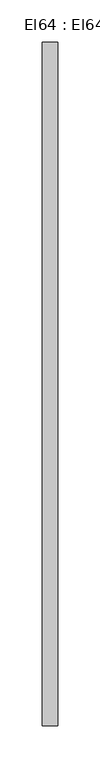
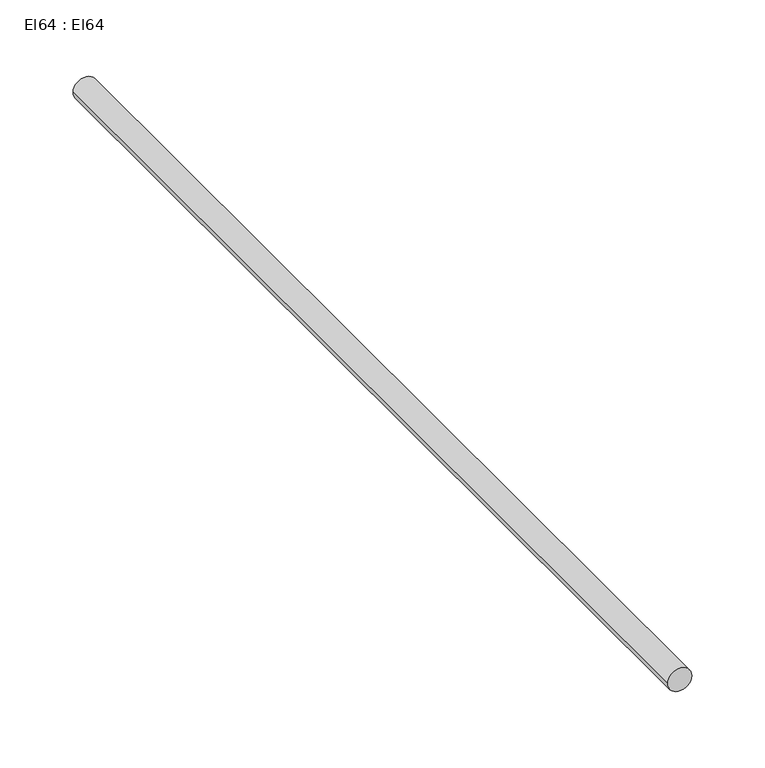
"""IFC4 building model written with IfcOpenShell, lengths in millimetres: cable carrier segment geometry, El64 : El64."""

from ifc_helpers import new_model, si_unit, point, frame, frame_2d, origin, place, context, project, spatial, circle_curve, trimmed, segment, composite_curve, outline, extrude, source, transform, mapped, element, save


def el64_el64_7803b028(model_context):
    return source(origin(), model_context, "Body", "SweptSolid", [
        extrude(outline(composite_curve([segment(trimmed(circle_curve(frame_2d((1200.0, 12950.0)), 9.5), [point((1200.0, 12940.5))], [point((1200.0, 12959.5))], False, "CARTESIAN"), True, "CONTINUOUS"), segment(trimmed(circle_curve(frame_2d((1200.0, 12950.0)), 9.5), [point((1200.0, 12959.5))], [point((1200.0, 12940.5))], False, "CARTESIAN"), True, "CONTINUOUS")], self_intersect=False)), frame((0.0, 15954.92, 0.0), z_axis=(0.0, 1.0, 0.0), x_axis=(0.0, 0.0, 1.0)), (0.0, 0.0, 1.0), 813.961),
    ])


if __name__ == "__main__":
    model = new_model("IFC4")
    model_context = context("Model", 3, world=origin())
    ifc_project = project(units=[si_unit("LENGTHUNIT", "METRE", prefix="MILLI")], contexts=[model_context])
    site = spatial("IfcSite", under=ifc_project)
    building = spatial("IfcBuilding", under=site)
    placement = place(None, origin())
    el64_el64_shape = el64_el64_7803b028(model_context)
    element("IfcCableCarrierSegment", 1, ObjectType="El64 : El64", at=placement, inside=building, context=model_context, shape_type="MappedRepresentation", body=[
        mapped(el64_el64_shape, transform((0.0, 0.0, 0.0), x_axis=(1.0, 0.0, 0.0), y_axis=(0.0, 1.0, 0.0), z_axis=(0.0, 0.0, 1.0))),
    ])
    save(model, "model.ifc")
